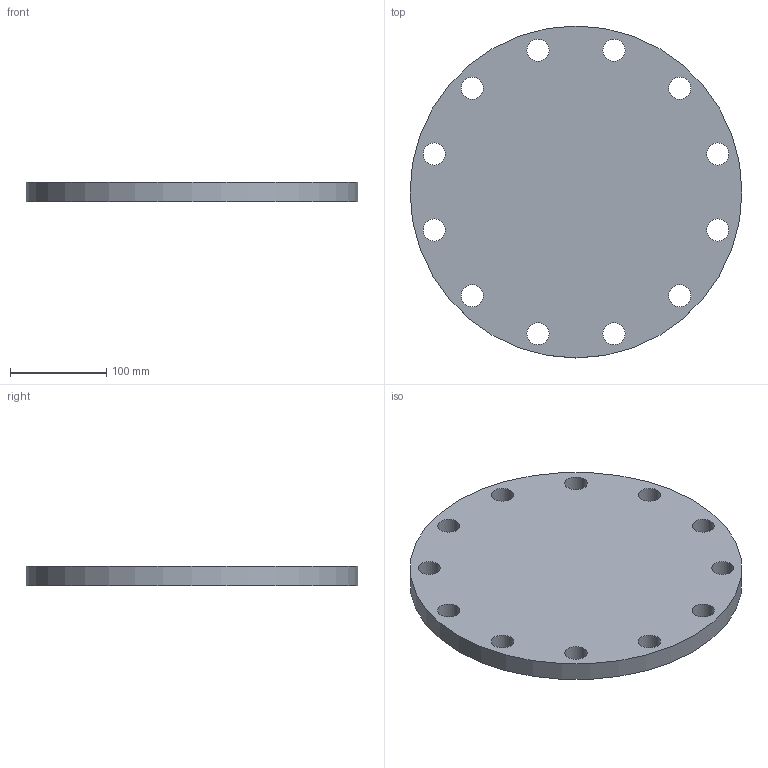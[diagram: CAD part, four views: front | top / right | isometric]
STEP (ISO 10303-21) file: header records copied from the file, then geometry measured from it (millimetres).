
FILE_DESCRIPTION(/* description */ (''),/* implementation_level */ '2;1');
FILE_NAME(/* name */ 'C:\Users\D\Documents\Inventor\HP\JIS\フランジ\JIS 5k bl ff\jis5k-bl-ff-225.stp',/* time_stamp */ '2024-09-12T16:49:29+09:00',/* author */ ('D'),/* organization */ (''),/* preprocessor_version */ 'ST-DEVELOPER v18',/* originating_system */ 'Autodesk Inventor 2020',/* authorisation */ '');
FILE_SCHEMA (('AUTOMOTIVE_DESIGN { 1 0 10303 214 3 1 1 }'));
Length unit declared in the file: millimetre
Products named in the file (1): jis5k-sop-rf-10
Bounding box: 345 x 345 x 20 mm (x, y, z)
Volume: 1769926.2 mm3; surface area: 216011.2 mm2
Topology: 1 solids, 1 shells, 15 faces, 53 edges, 40 vertices
Faces by surface type: cylinder 13, plane 2
Full cylindrical faces by diameter (mm): 23 x12, 345 x1
Entity records: 708 total; most frequent: DIRECTION 125, CARTESIAN_POINT 109, ORIENTED_EDGE 106, AXIS2_PLACEMENT_3D 56, EDGE_CURVE 53, CIRCLE 40, VERTEX_POINT 40, EDGE_LOOP 39
